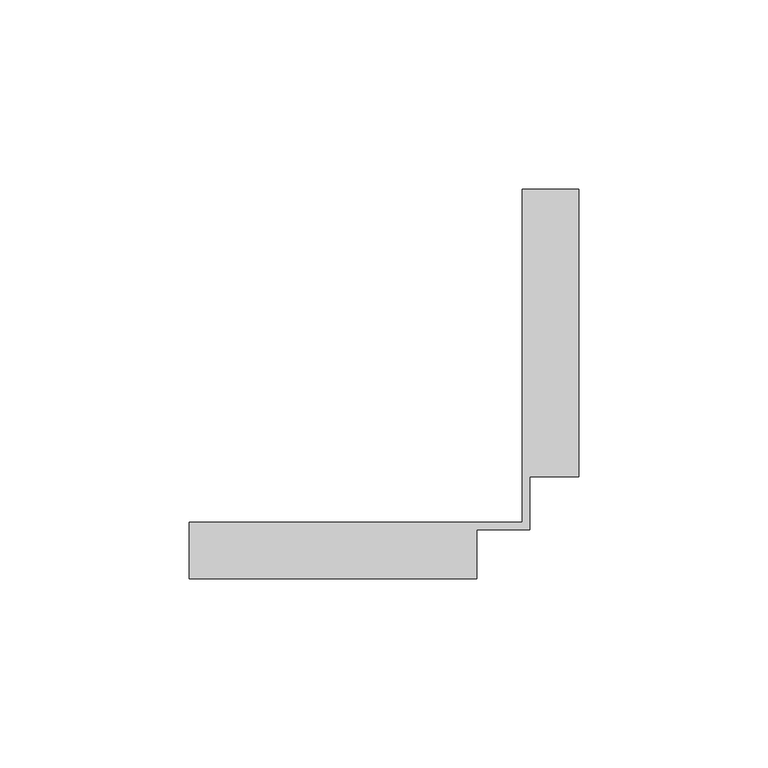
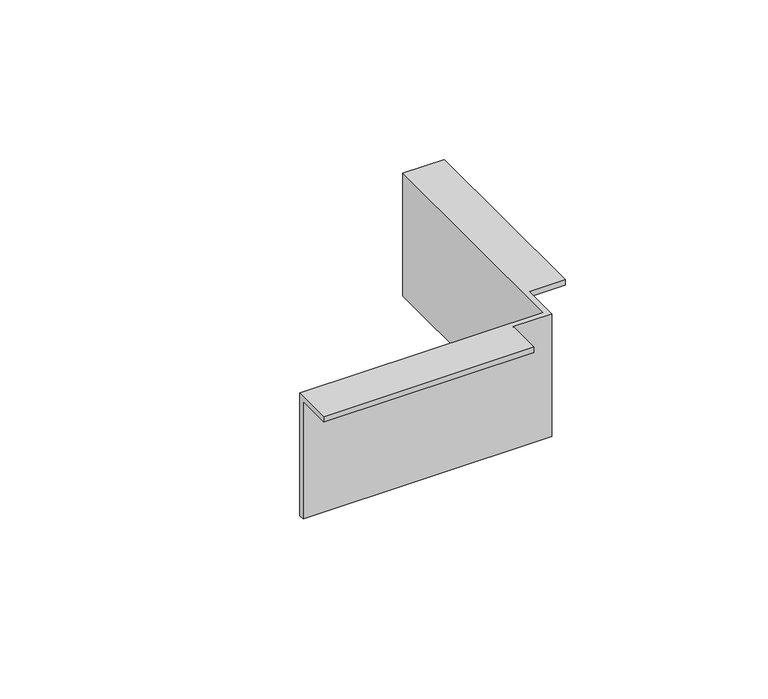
"""IFC4 building model written with IfcOpenShell, lengths in millimetres: cable carrier fitting geometry, BAKS_LD_CONN_Angle coupler bendable_LKU : LKUC_H45."""

from ifc_helpers import new_model, si_unit, origin, place, context, project, spatial, faceted_brep, source, transform, mapped, element, save


def cable_carrier_fitting_d4fd6989(model_context):
    return source(origin(), model_context, "Body", "Brep", [
        faceted_brep([(-90.0, 0.0, 45.0), (-90.0, -13.0, 45.0), (-90.0, -13.0, 47.0), (-90.0, 2.0, 47.0), (-90.0, 2.0, 0.0), (-90.0, 0.0, 0.0), (0.0, 0.0, 0.0), (0.0, 0.0, 47.0), (-14.0, 0.0, 47.0), (-14.0, 0.0, 45.0), (-2.0, 2.0, 0.0), (-2.0, 90.0, 0.0), (0.0, 90.0, 0.0), (-2.0, 2.0, 47.0), (-14.0, -13.0, 45.0), (13.0, 90.0, 45.0), (13.0, 14.0, 45.0), (0.0, 14.0, 45.0), (0.0, 90.0, 45.0), (-14.0, -13.0, 47.0), (0.0, 14.0, 47.0), (13.0, 14.0, 47.0), (13.0, 90.0, 47.0), (-2.0, 90.0, 47.0)], [[[0, 1, 2, 3, 4, 5]], [[5, 6, 7, 8, 9, 0]], [[4, 10, 11, 12, 6, 5]], [[3, 13, 10, 4]], [[0, 9, 14, 1]], [[15, 16, 17, 18]], [[1, 14, 19, 2]], [[2, 19, 8, 7, 20, 21, 22, 23, 13, 3]], [[11, 23, 22, 15, 18, 12]], [[6, 12, 18, 17, 20, 7]], [[10, 13, 23, 11]], [[22, 21, 16, 15]], [[17, 16, 21, 20]], [[8, 19, 14, 9]]]),
    ])


if __name__ == "__main__":
    model = new_model("IFC4")
    model_context = context("Model", 3, world=origin())
    ifc_project = project(units=[si_unit("LENGTHUNIT", "METRE", prefix="MILLI")], contexts=[model_context])
    site = spatial("IfcSite", under=ifc_project)
    building = spatial("IfcBuilding", under=site)
    placement = place(None, origin())
    cable_carrier_fitting_shape = cable_carrier_fitting_d4fd6989(model_context)
    element("IfcCableCarrierFitting", 1, ObjectType="BAKS_LD_CONN_Angle coupler bendable_LKU : LKUC_H45", at=placement, inside=building, context=model_context, shape_type="MappedRepresentation", body=[
        mapped(cable_carrier_fitting_shape, transform((0.0, 0.0, 0.0), x_axis=(1.0, 0.0, 0.0), y_axis=(0.0, 1.0, 0.0), z_axis=(0.0, 0.0, 1.0))),
    ])
    save(model, "model.ifc")
